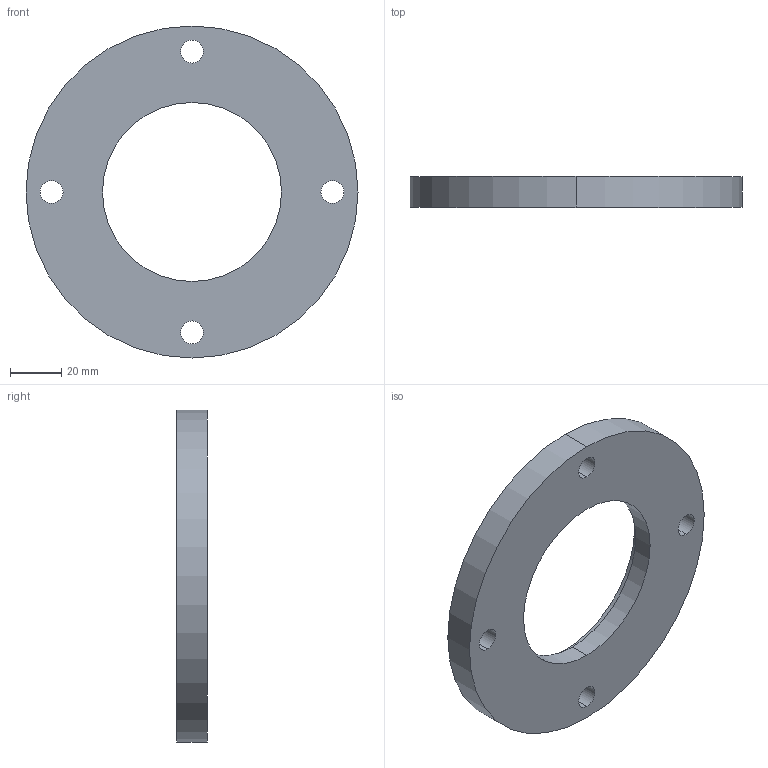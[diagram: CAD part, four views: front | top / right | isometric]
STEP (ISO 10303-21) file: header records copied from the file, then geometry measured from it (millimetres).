
FILE_DESCRIPTION (( 'STEP AP214' ), '1' );
FILE_NAME ('W5KL63.STEP', '2019-04-01T09:39:57', ( '' ), ( '' ), 'SwSTEP 2.0', 'SolidWorks 2018', '' );
FILE_SCHEMA (( 'AUTOMOTIVE_DESIGN' ));
Length unit declared in the file: millimetre
Products named in the file (1): W5KL63
Bounding box: 130 x 12 x 130 mm (x, y, z)
Volume: 106819.6 mm3; surface area: 27303.6 mm2
Topology: 1 solids, 1 shells, 17 faces, 42 edges, 28 vertices
Faces by surface type: cylinder 14, plane 3
Entity records: 578 total; most frequent: DIRECTION 106, CARTESIAN_POINT 88, ORIENTED_EDGE 84, AXIS2_PLACEMENT_3D 46, EDGE_CURVE 42, EDGE_LOOP 28, CIRCLE 28, VERTEX_POINT 28
